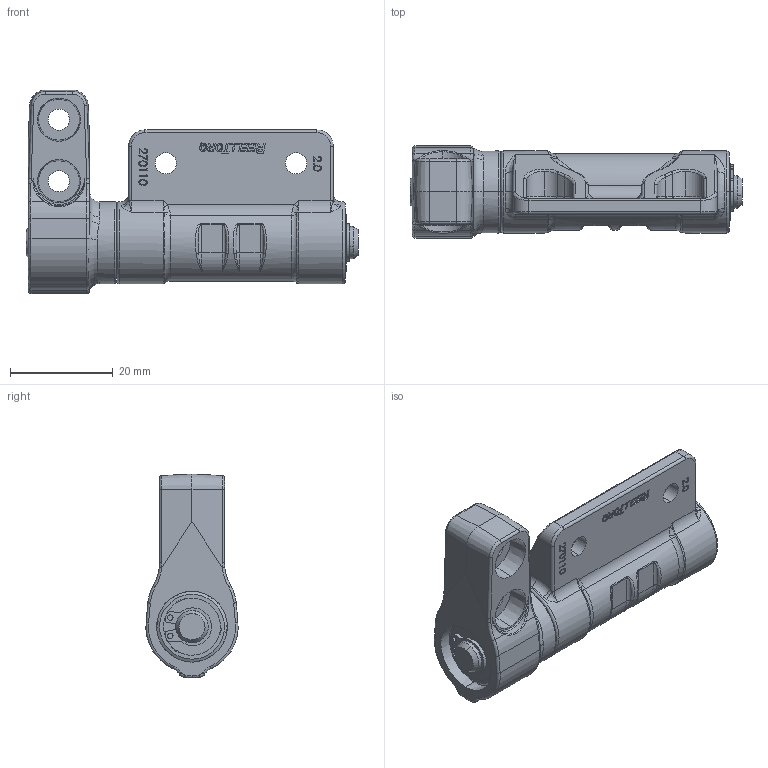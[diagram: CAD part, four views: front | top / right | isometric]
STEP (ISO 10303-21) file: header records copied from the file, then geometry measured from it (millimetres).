
FILE_DESCRIPTION (( 'STEP AP214' ), '1' );
FILE_NAME ('Reell PHL Hinge, Left.STEP', '2017-04-13T19:13:10', ( 'USER' ), ( '' ), 'SwSTEP 2.0', 'SolidWorks 2017', '' );
FILE_SCHEMA (( 'AUTOMOTIVE_DESIGN' ));
Length unit declared in the file: millimetre
Products named in the file (8): Bushing; Washer, Shim; Retaining Ring; Housing_IGES; Shaft; Shaft End_Customer; Bracket D; Reell PHL Hinge, Left
Assembly tree (9 placements, depth 2):
  Reell PHL Hinge, Left
    Bracket D
    Shaft End_Customer
    Shaft
    Housing_IGES
    Retaining Ring  x2
    Washer, Shim  x2
    Bushing
Bounding box: 64.76 x 17.96 x 39.79 mm (x, y, z)
Volume: 17555.3 mm3; surface area: 11418.1 mm2
Topology: 9 solids, 9 shells, 821 faces, 2109 edges, 1338 vertices
Faces by surface type: cylinder 325, plane 222, bspline 168, torus 64, cone 42
Entity records: 33233 total; most frequent: CARTESIAN_POINT 14708, ORIENTED_EDGE 4004, DIRECTION 3137, EDGE_CURVE 2002, VERTEX_POINT 1276, AXIS2_PLACEMENT_3D 1134, LINE 869, VECTOR 869
